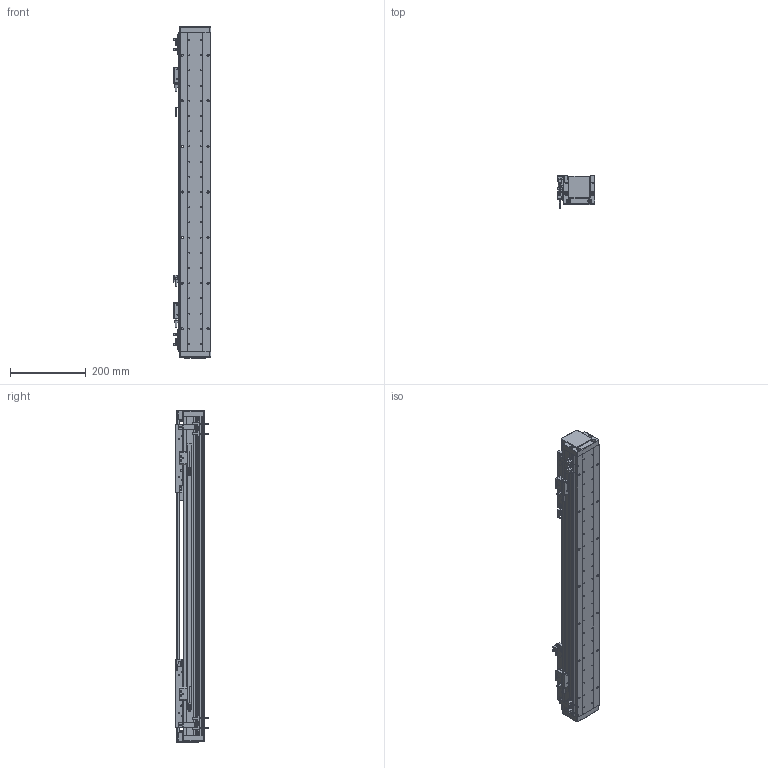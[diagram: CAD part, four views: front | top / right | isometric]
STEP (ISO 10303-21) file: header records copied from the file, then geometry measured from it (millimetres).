
FILE_DESCRIPTION (( 'STEP AP203' ), '1' );
FILE_NAME ('DA-A82-2-B2-T420-C010-0.2 眻盄萇儂.STEP', '2025-08-13T02:28:39', ( '' ), ( '' ), 'SwSTEP 2.0', 'SolidWorks 2019', '' );
FILE_SCHEMA (( 'CONFIG_CONTROL_DESIGN' ));
Length unit declared in the file: millimetre
Products named in the file (27): AU82-M-00 珨极趙賑雄怢啣; 复件 DA95-B2-GT-00 滑块钢轨^AU82-M-00 一体化滑动台板; IU-AU82-L-00 菁釱(L840); 复件 XD-U-02  磁栅尺^DA-A82-B2-T-C010-0.2-N 直线电机; 复件 DA82-DG-H-N-00 端盖^DA-A82-B2-T-C010-0.2-N 直线电机(默认_按加工_); DA-A60-GYP-DMT-00 光电感应片^DA-A82-B2-T-C010-0.2-N 直线电机(默认); 复件 DA60-DMT-DTJ-00 读数头支架^DA-A82-B2-T-C010-0.2-N 直线电机; 复件 DA82-GYP-ZJ-00 中间光电感应片^DA-A82-B2-T-C010-0.2-N 直线电机; DA-A82-2-B2-T420-C010-0.2 眻盄萇儂; 复件 DA95-GT-T-00 底座钢轨^IU-AU82-L 底座导轨; AU82-M 幗紩賑怢-1; 复件 纯铜油杯 6x6mm^AU82-M 滚珠滑台; IU-AU82-L 菁釱絳寢; 复件 复件 DA82-XJ-00 缓冲橡胶^DA-A82-B2-T-C010-0.2-N 直线电机; 复件 六角薄螺母 M3^DA-A82-B2-T-C010-0.2-N 直线电机; 复件 DKW-GJ-XJ-00 防撞橡胶^DA-A82-B2-T-C010-0.2-N 直线电机; AU82-M-00 珨极趙賑雄怢啣-1; 葩璃 DMT-010 1米m 0.2M^DA-A82-B2-T-C010-0.2-N 眻盄萇儂; 复件 BKM02-W040-C1-TP-DA-3.0 直线电机动子^DA-A82-B2-T-C010-0.2-N 直线电机; AU82-M 幗紩賑怢; 葩璃 PM-T45^DA-A82-B2-T-C010-0.2-N 眻盄萇儂; 葩璃 BKM01-W040-TRL^DA-A82-B2-T-C010-0.2-N 眻盄萇儂; 复件 DA82-T-002-00 盖板^DA-A82-B2-T-C010-0.2-N 直线电机; 复件 DA82-GDZ-ZJ-00 中间光电固定座^DA-A82-B2-T-C010-0.2-N 直线电机; AU82-HT-M-00 賑雄怢啣; 葩璃 DA82-B2-DP-00 結え^AU82-M 幗紩賑怢; 葩璃 PM-L25^DA-A82-B2-T-C010-0.2-N 眻盄萇儂
Assembly tree (57 placements, depth 4):
  DA-A82-2-B2-T420-C010-0.2 眻盄萇儂
    IU-AU82-L 菁釱絳寢
      IU-AU82-L-00 菁釱(L840)
      复件 DA95-GT-T-00 底座钢轨^IU-AU82-L 底座导轨  x2
    AU82-M 幗紩賑怢
      AU82-M-00 珨极趙賑雄怢啣
        AU82-HT-M-00 賑雄怢啣
        复件 DA95-B2-GT-00 滑块钢轨^AU82-M-00 一体化滑动台板  x4
      葩璃 DA82-B2-DP-00 結え^AU82-M 幗紩賑怢  x2
      复件 纯铜油杯 6x6mm^AU82-M 滚珠滑台  x2
    AU82-M 幗紩賑怢-1
      AU82-M-00 珨极趙賑雄怢啣-1
        AU82-HT-M-00 賑雄怢啣
        复件 DA95-B2-GT-00 滑块钢轨^AU82-M-00 一体化滑动台板  x4
      葩璃 DA82-B2-DP-00 結え^AU82-M 幗紩賑怢  x2
      复件 纯铜油杯 6x6mm^AU82-M 滚珠滑台  x2
    复件 BKM02-W040-C1-TP-DA-3.0 直线电机动子^DA-A82-B2-T-C010-0.2-N 直线电机  x2
    复件 DA60-DMT-DTJ-00 读数头支架^DA-A82-B2-T-C010-0.2-N 直线电机  x2
    葩璃 DMT-010 1米m 0.2M^DA-A82-B2-T-C010-0.2-N 眻盄萇儂  x2
    DA-A60-GYP-DMT-00 光电感应片^DA-A82-B2-T-C010-0.2-N 直线电机(默认)  x2
    复件 DA82-GDZ-ZJ-00 中间光电固定座^DA-A82-B2-T-C010-0.2-N 直线电机
    葩璃 PM-L25^DA-A82-B2-T-C010-0.2-N 眻盄萇儂
    复件 DA82-GYP-ZJ-00 中间光电感应片^DA-A82-B2-T-C010-0.2-N 直线电机
    复件 DKW-GJ-XJ-00 防撞橡胶^DA-A82-B2-T-C010-0.2-N 直线电机
    复件 复件 DA82-XJ-00 缓冲橡胶^DA-A82-B2-T-C010-0.2-N 直线电机  x2
    复件 DA82-DG-H-N-00 端盖^DA-A82-B2-T-C010-0.2-N 直线电机(默认_按加工_)  x2
    复件 DA82-T-002-00 盖板^DA-A82-B2-T-C010-0.2-N 直线电机
    葩璃 BKM01-W040-TRL^DA-A82-B2-T-C010-0.2-N 眻盄萇儂
    葩璃 PM-T45^DA-A82-B2-T-C010-0.2-N 眻盄萇儂  x4
    复件 XD-U-02  磁栅尺^DA-A82-B2-T-C010-0.2-N 直线电机
    复件 六角薄螺母 M3^DA-A82-B2-T-C010-0.2-N 直线电机  x8
Bounding box: 98.95 x 87.2 x 874 mm (x, y, z)
Volume: 3349140.6 mm3; surface area: 938024.6 mm2
Topology: 66 solids, 114 shells, 3039 faces, 7735 edges, 4752 vertices
Faces by surface type: cylinder 1301, plane 1228, cone 436, torus 46, bspline 20, sphere 8
Entity records: 57769 total; most frequent: CARTESIAN_POINT 12216, DIRECTION 9020, ORIENTED_EDGE 8422, EDGE_CURVE 4211, AXIS2_PLACEMENT_3D 3373, VERTEX_POINT 2723, LINE 2274, VECTOR 2274
